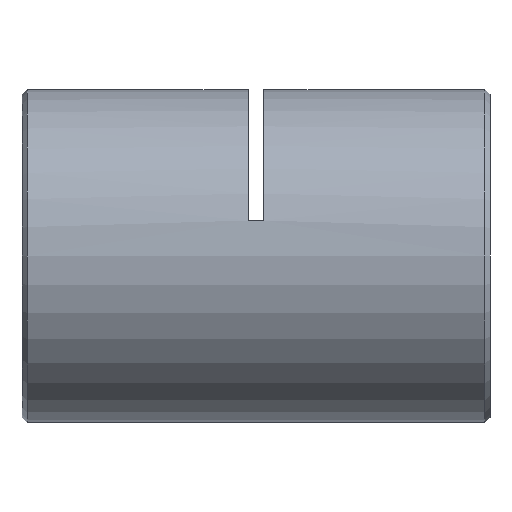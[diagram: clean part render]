
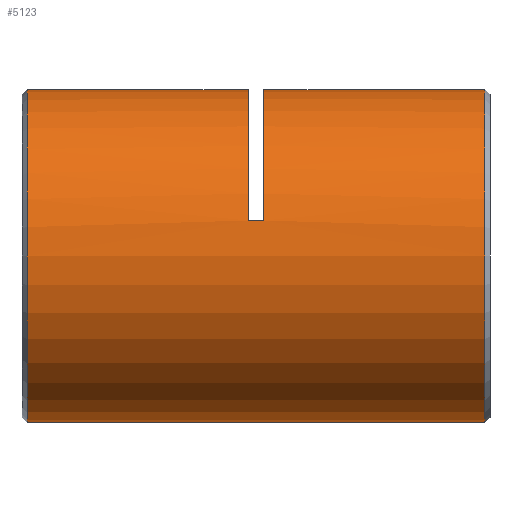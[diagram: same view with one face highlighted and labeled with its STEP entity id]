
A CAD part, left-side view. The second image highlights one B-rep face of the part: STEP entity #5123.
In plain terms, the highlighted cylindrical face has radius 16 mm (diameter 32 mm), a partial arc.
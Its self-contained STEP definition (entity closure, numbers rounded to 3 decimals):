
#45 = CARTESIAN_POINT ( 'NONE',  ( 0., 0.75, 0. ) ) ;
#124 = VERTEX_POINT ( 'NONE', #1517 ) ;
#257 = DIRECTION ( 'NONE',  ( 0., -1., 0. ) ) ;
#492 = ORIENTED_EDGE ( 'NONE', *, *, #2451, .T. ) ;
#679 = CARTESIAN_POINT ( 'NONE',  ( 0., 23.5, 0. ) ) ;
#776 = EDGE_CURVE ( 'NONE', #2669, #3546, #2480, .T. ) ;
#857 = EDGE_CURVE ( 'NONE', #5884, #4170, #3610, .T. ) ;
#892 = CIRCLE ( 'NONE', #1616, 16. ) ;
#1046 = DIRECTION ( 'NONE',  ( 0., 1., 0. ) ) ;
#1097 = EDGE_LOOP ( 'NONE', ( #3930, #5116, #4788, #2123, #492, #6131, #2990, #2732 ) ) ;
#1222 = AXIS2_PLACEMENT_3D ( 'NONE', #2802, #257, #2210 ) ;
#1239 = DIRECTION ( 'NONE',  ( 0., 1., 0. ) ) ;
#1266 = LINE ( 'NONE', #6157, #4059 ) ;
#1389 = LINE ( 'NONE', #2304, #4013 ) ;
#1517 = CARTESIAN_POINT ( 'NONE',  ( -15.632, 23.5, 3.413 ) ) ;
#1526 = AXIS2_PLACEMENT_3D ( 'NONE', #3938, #1046, #2897 ) ;
#1616 = AXIS2_PLACEMENT_3D ( 'NONE', #679, #4206, #6217 ) ;
#1686 = VERTEX_POINT ( 'NONE', #2624 ) ;
#1763 = EDGE_CURVE ( 'NONE', #2124, #1686, #3607, .T. ) ;
#1972 = EDGE_CURVE ( 'NONE', #2124, #3546, #6137, .T. ) ;
#1978 = CARTESIAN_POINT ( 'NONE',  ( 0., 44.75, 16. ) ) ;
#2123 = ORIENTED_EDGE ( 'NONE', *, *, #857, .F. ) ;
#2124 = VERTEX_POINT ( 'NONE', #2147 ) ;
#2147 = CARTESIAN_POINT ( 'NONE',  ( 0., 0.75, -16. ) ) ;
#2210 = DIRECTION ( 'NONE',  ( 0., 0., -1. ) ) ;
#2304 = CARTESIAN_POINT ( 'NONE',  ( -15.632, 22.75, 3.413 ) ) ;
#2373 = EDGE_CURVE ( 'NONE', #2918, #2669, #4187, .T. ) ;
#2376 = EDGE_CURVE ( 'NONE', #1686, #4170, #1266, .T. ) ;
#2451 = EDGE_CURVE ( 'NONE', #5884, #124, #1389, .T. ) ;
#2480 = CIRCLE ( 'NONE', #1222, 16. ) ;
#2624 = CARTESIAN_POINT ( 'NONE',  ( 0., 0.75, 16. ) ) ;
#2669 = VERTEX_POINT ( 'NONE', #1978 ) ;
#2680 = CARTESIAN_POINT ( 'NONE',  ( 0., 22., 0. ) ) ;
#2708 = DIRECTION ( 'NONE',  ( 0., 1., 0. ) ) ;
#2712 = CARTESIAN_POINT ( 'NONE',  ( 0., 0., -16. ) ) ;
#2732 = ORIENTED_EDGE ( 'NONE', *, *, #776, .T. ) ;
#2802 = CARTESIAN_POINT ( 'NONE',  ( 0., 44.75, 0. ) ) ;
#2897 = DIRECTION ( 'NONE',  ( 0., 0., 1. ) ) ;
#2918 = VERTEX_POINT ( 'NONE', #4572 ) ;
#2990 = ORIENTED_EDGE ( 'NONE', *, *, #2373, .T. ) ;
#3075 = CARTESIAN_POINT ( 'NONE',  ( 0., 44.75, -16. ) ) ;
#3300 = DIRECTION ( 'NONE',  ( 0., 1., 0. ) ) ;
#3393 = FACE_OUTER_BOUND ( 'NONE', #1097, .T. ) ;
#3476 = CARTESIAN_POINT ( 'NONE',  ( -15.632, 22., 3.413 ) ) ;
#3546 = VERTEX_POINT ( 'NONE', #3075 ) ;
#3607 = CIRCLE ( 'NONE', #5650, 16. ) ;
#3610 = CIRCLE ( 'NONE', #6371, 16. ) ;
#3805 = DIRECTION ( 'NONE',  ( 0., 0., 1. ) ) ;
#3848 = DIRECTION ( 'NONE',  ( 0., 1., 0. ) ) ;
#3930 = ORIENTED_EDGE ( 'NONE', *, *, #1972, .F. ) ;
#3938 = CARTESIAN_POINT ( 'NONE',  ( 0., 0., 0. ) ) ;
#4013 = VECTOR ( 'NONE', #3848, 1000. ) ;
#4059 = VECTOR ( 'NONE', #3300, 1000. ) ;
#4170 = VERTEX_POINT ( 'NONE', #6061 ) ;
#4187 = LINE ( 'NONE', #5714, #4988 ) ;
#4206 = DIRECTION ( 'NONE',  ( 0., 1., 0. ) ) ;
#4334 = DIRECTION ( 'NONE',  ( 0., 1., 0. ) ) ;
#4450 = CYLINDRICAL_SURFACE ( 'NONE', #1526, 16. ) ;
#4572 = CARTESIAN_POINT ( 'NONE',  ( 0., 23.5, 16. ) ) ;
#4622 = EDGE_CURVE ( 'NONE', #124, #2918, #892, .T. ) ;
#4656 = DIRECTION ( 'NONE',  ( 0., 1., 0. ) ) ;
#4788 = ORIENTED_EDGE ( 'NONE', *, *, #2376, .T. ) ;
#4988 = VECTOR ( 'NONE', #2708, 1000. ) ;
#5116 = ORIENTED_EDGE ( 'NONE', *, *, #1763, .T. ) ;
#5123 = ADVANCED_FACE ( 'NONE', ( #3393 ), #4450, .T. ) ;
#5190 = DIRECTION ( 'NONE',  ( 0., 0., 1. ) ) ;
#5574 = VECTOR ( 'NONE', #4656, 1000. ) ;
#5650 = AXIS2_PLACEMENT_3D ( 'NONE', #45, #4334, #3805 ) ;
#5714 = CARTESIAN_POINT ( 'NONE',  ( 0., 0., 16. ) ) ;
#5884 = VERTEX_POINT ( 'NONE', #3476 ) ;
#6061 = CARTESIAN_POINT ( 'NONE',  ( 0., 22., 16. ) ) ;
#6131 = ORIENTED_EDGE ( 'NONE', *, *, #4622, .T. ) ;
#6137 = LINE ( 'NONE', #2712, #5574 ) ;
#6157 = CARTESIAN_POINT ( 'NONE',  ( 0., 0., 16. ) ) ;
#6217 = DIRECTION ( 'NONE',  ( 0., 0., 1. ) ) ;
#6371 = AXIS2_PLACEMENT_3D ( 'NONE', #2680, #1239, #5190 ) ;
